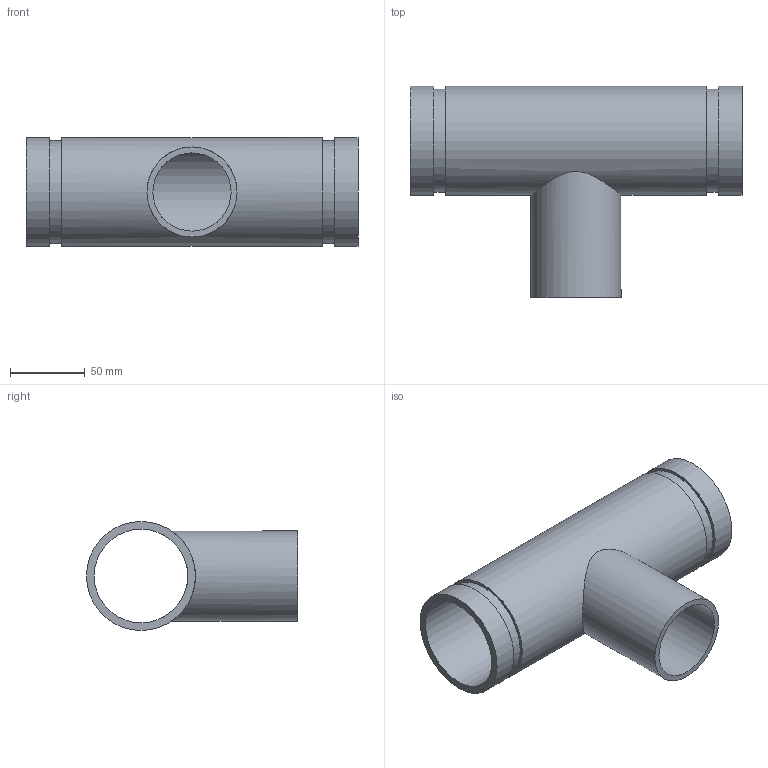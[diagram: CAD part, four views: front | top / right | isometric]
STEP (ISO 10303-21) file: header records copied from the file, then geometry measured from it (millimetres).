
FILE_DESCRIPTION(/* description */ ('VIC REDUCING TEE No 29T FFT (OGSxMPT)','CAx-IF Rec.Pracs.---Representation and Presentation of Product Manufacturing Information (PMI)---4.0---2014-10-13'),/* implementation_level */ '2;1');
FILE_NAME(/* name */ 'C:\Users\kkamble\AppData\Roaming\Autodesk\ApplicationPlugins\Back Up\Victaulic_IPS_Tee Reducing_No 29T FFT (OGSxMPT)\Victaulic_IPS_Tee Reducing_No 29T FFT (OGSxMPT)_02.5x02.0 (65x50).stp',/* time_stamp */ '2020-09-16T22:37:33+05:00',/* author */ ('CORINNE GRAY'),/* organization */ ('Victaulic'),/* preprocessor_version */ 'ST-DEVELOPER v17.2',/* originating_system */ 'Autodesk Inventor 2019',/* authorisation */ '');
FILE_SCHEMA (('AP242_MANAGED_MODEL_BASED_3D_ENGINEERING_MIM_LF { 1 0 10303 442 1 1 4 }'));
Length unit declared in the file: inch
Products named in the file (1): 29 FFT-02.5x02.0
Bounding box: 222.5 x 141.41 x 73.03 mm (x, y, z)
Volume: 277152.1 mm3; surface area: 121275.4 mm2
Topology: 1 solids, 1 shells, 15 faces, 32 edges, 24 vertices
Faces by surface type: cylinder 8, plane 7
Full cylindrical faces by diameter (mm): 52.502 x1, 60.325 x1, 62.713 x1, 69.088 x2, 73.025 x3
Entity records: 709 total; most frequent: CARTESIAN_POINT 221, DIRECTION 106, ORIENTED_EDGE 64, AXIS2_PLACEMENT_3D 49, EDGE_CURVE 32, EDGE_LOOP 24, VERTEX_POINT 24, CIRCLE 20
